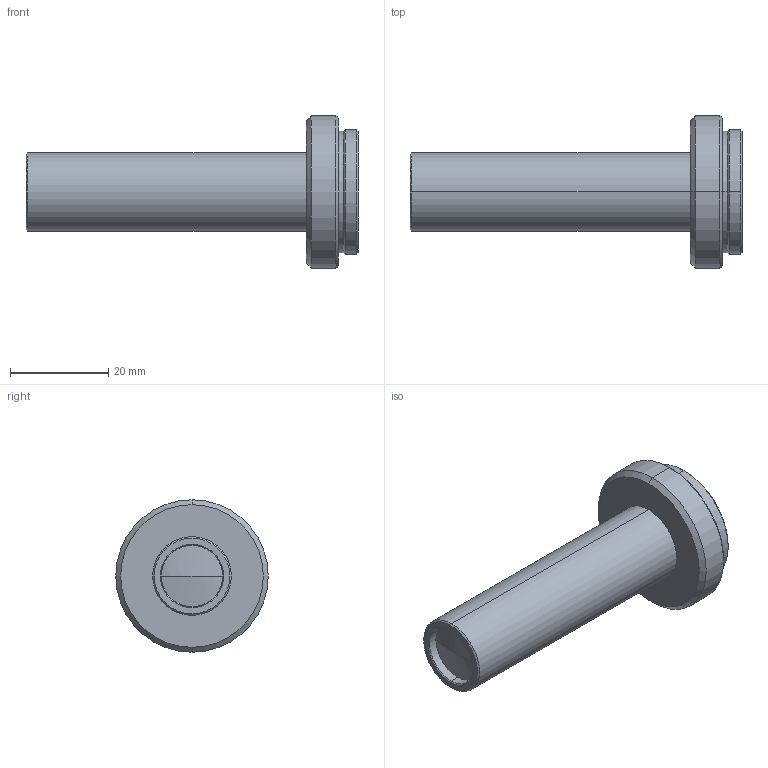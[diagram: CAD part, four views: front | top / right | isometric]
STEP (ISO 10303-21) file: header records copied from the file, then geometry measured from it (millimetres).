
FILE_DESCRIPTION (( 'STEP AP203' ), '1' );
FILE_NAME ('VS-TC2-65.STEP', '2015-07-17T07:07:39', ( 'miura_vst' ), ( '' ), 'SwSTEP 2.0', 'SolidWorks 2015', '' );
FILE_SCHEMA (( 'CONFIG_CONTROL_DESIGN' ));
Length unit declared in the file: millimetre
Products named in the file (1): VS-TC2-65
Bounding box: 67.5 x 31 x 31 mm (x, y, z)
Volume: 16372.7 mm3; surface area: 5699.9 mm2
Topology: 1 solids, 1 shells, 51 faces, 104 edges, 62 vertices
Faces by surface type: cone 22, cylinder 18, plane 7, sphere 4
Entity records: 1423 total; most frequent: DIRECTION 272, CARTESIAN_POINT 218, ORIENTED_EDGE 208, AXIS2_PLACEMENT_3D 116, EDGE_CURVE 104, CIRCLE 64, VERTEX_POINT 62, EDGE_LOOP 58
